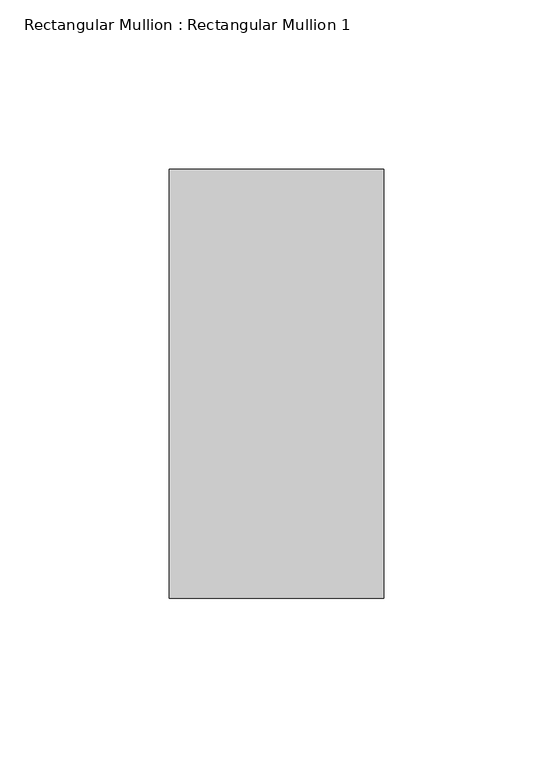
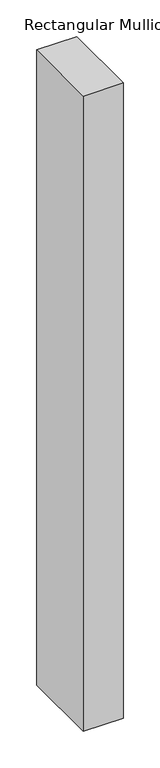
"""IFC4 building model written with IfcOpenShell, lengths in millimetres: member geometry, Rectangular Mullion : Rectangular Mullion 1."""

from ifc_helpers import new_model, si_unit, frame, origin, place, context, project, spatial, polyline, outline, extrude, source, transform, mapped, element, save


def rectangular_mullion_rectangular_mullion_1_5249c285(model_context):
    return source(origin(), model_context, "Body", "SweptSolid", [
        extrude(outline(polyline([(31.75, 63.5), (31.75, -63.5), (-31.75, -63.5), (-31.75, 63.5), (31.75, 63.5)])), frame((0.0, 0.0, -1059.0892859), z_axis=(0.0, 0.0, 1.0), x_axis=(1.0, 0.0, 0.0)), (0.0, 0.0, 1.0), 1059.0892859),
    ])


if __name__ == "__main__":
    model = new_model("IFC4")
    model_context = context("Model", 3, world=origin())
    ifc_project = project(units=[si_unit("LENGTHUNIT", "METRE", prefix="MILLI")], contexts=[model_context])
    site = spatial("IfcSite", under=ifc_project)
    building = spatial("IfcBuilding", under=site)
    placement = place(None, origin())
    rectangular_mullion_rectangular_mullion_1_shape = rectangular_mullion_rectangular_mullion_1_5249c285(model_context)
    element("IfcMember", 1, ObjectType="Rectangular Mullion : Rectangular Mullion 1", at=placement, inside=building, context=model_context, shape_type="MappedRepresentation", body=[
        mapped(rectangular_mullion_rectangular_mullion_1_shape, transform((0.0, 0.0, 0.0), x_axis=(1.0, 0.0, 0.0), y_axis=(0.0, 1.0, 0.0), z_axis=(0.0, 0.0, 1.0))),
    ])
    save(model, "model.ifc")
